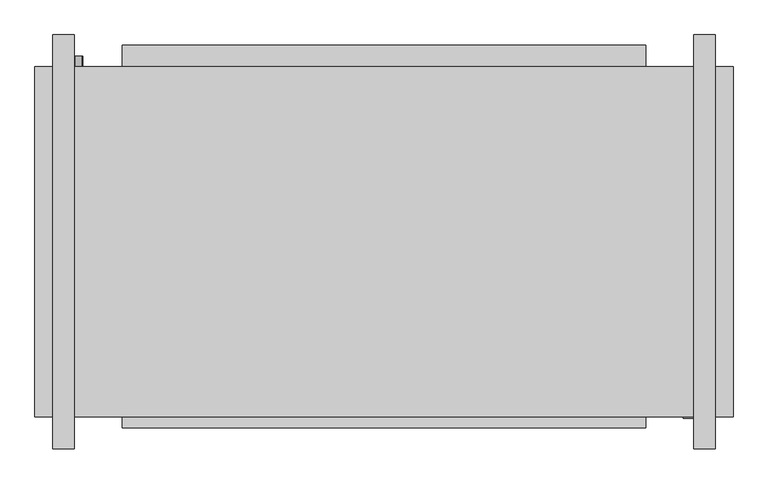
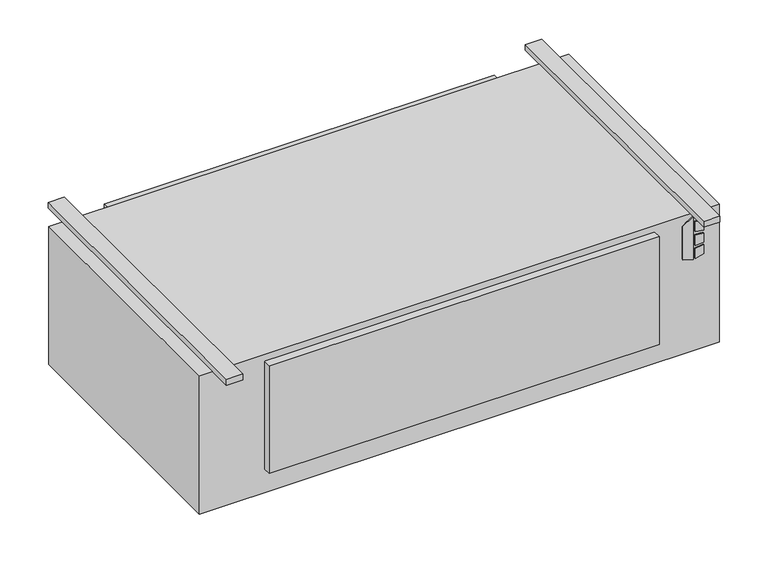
"""IFC4 building model written with IfcOpenShell, lengths in millimetres: proxy geometry, Concealed_High_Capacity_Horizontal_Cabinet_Fan_Coil_Unit_-_HXY_-_IEC_-_2-Pipe_Cool-EHeat_LH_2022 : Size 20 - 277v/60Hz/1Ph - 6 Row 14.0kW."""

from ifc_helpers import new_model, si_unit, point, frame, frame_2d, origin, origin_with_axes, place, context, project, spatial, polyline, circle_curve, trimmed, segment, composite_curve, outline, extrude, source, transform, mapped, element, save


def mechanical_equipment_720b4839(model_context):
    return source(origin(), model_context, "Body", "SweptSolid", [
        extrude(outline(polyline([(-142.4519297, 849.3868862), (-152.4, 881.5602728), (-10.2290756, 881.5602728), (-33.2510817, 849.3868862), (-142.4519297, 849.3868862)])), frame((0.0, -649.2875, 0.0), z_axis=(0.0, 1.0, 0.0), x_axis=(0.0, 0.0, 1.0)), (0.0, 0.0, 1.0), 3.175),
        extrude(outline(polyline([(-63.4526443, 888.3186058), (-66.6550368, 914.4), (-37.4261958, 914.4), (-29.3617807, 888.3186058), (-63.4526443, 888.3186058)])), frame((0.0, -649.2875, 0.0), z_axis=(0.0, 1.0, 0.0), x_axis=(0.0, 0.0, 1.0)), (0.0, 0.0, 1.0), 3.175),
        extrude(outline(polyline([(-115.3161712, 914.4), (-118.9816721, 888.3186058), (-152.4, 888.3186058), (-143.7657628, 914.4), (-115.3161712, 914.4)])), frame((0.0, -649.2875, 0.0), z_axis=(0.0, 1.0, 0.0), x_axis=(0.0, 0.0, 1.0)), (0.0, 0.0, 1.0), 3.175),
        extrude(outline(polyline([(-76.0010097, 914.4), (-73.7191834, 888.3186058), (-109.6567319, 888.3186058), (-106.9154669, 914.4), (-76.0010097, 914.4)])), frame((0.0, -649.2875, 0.0), z_axis=(0.0, 1.0, 0.0), x_axis=(0.0, 0.0, 1.0)), (0.0, 0.0, 1.0), 3.175),
        extrude(outline(composite_curve([segment(trimmed(circle_curve(frame_2d((-406.4, -558.8)), 9.525), [point((-406.4, -568.325))], [point((-406.4, -549.275))], False, "CARTESIAN"), True, "CONTINUOUS"), segment(trimmed(circle_curve(frame_2d((-406.4, -558.8)), 9.525), [point((-406.4, -549.275))], [point((-406.4, -568.325))], False, "CARTESIAN"), True, "CONTINUOUS")], self_intersect=False)), frame((0.0, 169.8625, 0.0), z_axis=(0.0, 1.0, 0.0), x_axis=(0.0, 0.0, 1.0)), (0.0, 0.0, 1.0), 25.4),
        extrude(outline(composite_curve([segment(trimmed(circle_curve(frame_2d((-330.2, -558.8)), 7.9375), [point((-330.2, -566.7375))], [point((-330.2, -550.8625))], False, "CARTESIAN"), True, "CONTINUOUS"), segment(trimmed(circle_curve(frame_2d((-330.2, -558.8)), 7.9375), [point((-330.2, -550.8625))], [point((-330.2, -566.7375))], False, "CARTESIAN"), True, "CONTINUOUS")], self_intersect=False)), frame((0.0, 169.8625, 0.0), z_axis=(0.0, 1.0, 0.0), x_axis=(0.0, 0.0, 1.0)), (0.0, 0.0, 1.0), 25.4),
        extrude(outline(composite_curve([segment(trimmed(circle_curve(frame_2d((-254.0, -558.8)), 7.9375), [point((-254.0, -566.7375))], [point((-254.0, -550.8625))], False, "CARTESIAN"), True, "CONTINUOUS"), segment(trimmed(circle_curve(frame_2d((-254.0, -558.8)), 7.9375), [point((-254.0, -550.8625))], [point((-254.0, -566.7375))], False, "CARTESIAN"), True, "CONTINUOUS")], self_intersect=False)), frame((0.0, 169.8625, 0.0), z_axis=(0.0, 1.0, 0.0), x_axis=(0.0, 0.0, 1.0)), (0.0, 0.0, 1.0), 25.4),
        extrude(outline(polyline([(965.2, 169.8625), (965.2, -646.1125), (-660.4, -646.1125), (-660.4, 169.8625), (965.2, 169.8625)])), frame((0.0, 0.0, -457.2), z_axis=(0.0, 0.0, 1.0), x_axis=(1.0, 0.0, 0.0)), (0.0, 0.0, 1.0), 457.2),
        extrude(outline(polyline([(-457.2, 220.6625), (762.0, 220.6625), (762.0, 169.8625), (-457.2, 169.8625), (-457.2, 220.6625)])), frame((0.0, 0.0, -377.825), z_axis=(0.0, 0.0, 1.0), x_axis=(1.0, 0.0, 0.0)), (0.0, 0.0, 1.0), 349.25),
        extrude(outline(polyline([(-568.325, 244.475), (-568.325, -720.725), (-619.125, -720.725), (-619.125, 244.475), (-568.325, 244.475)])), origin_with_axes(), (0.0, 0.0, 1.0), 19.05),
        extrude(outline(polyline([(923.925, 244.475), (923.925, -720.725), (873.125, -720.725), (873.125, 244.475), (923.925, 244.475)])), origin_with_axes(), (0.0, 0.0, 1.0), 19.05),
        extrude(outline(polyline([(762.0, -671.5125), (-457.2, -671.5125), (-457.2, -646.1125), (762.0, -646.1125), (762.0, -671.5125)])), frame((0.0, 0.0, -377.825), z_axis=(0.0, 0.0, 1.0), x_axis=(1.0, 0.0, 0.0)), (0.0, 0.0, 1.0), 355.6),
    ])


if __name__ == "__main__":
    model = new_model("IFC4")
    model_context = context("Model", 3, world=origin())
    ifc_project = project(units=[si_unit("LENGTHUNIT", "METRE", prefix="MILLI")], contexts=[model_context])
    site = spatial("IfcSite", under=ifc_project)
    building = spatial("IfcBuilding", under=site)
    placement = place(None, origin())
    mechanical_equipment_shape = mechanical_equipment_720b4839(model_context)
    element("IfcBuildingElementProxy", 1, Name="Concealed_High_Capacity_Horizontal_Cabinet_Fan_Coil_Unit_-_HXY_-_IEC_-_2-Pipe_Cool-EHeat_LH_2022 : Size 20 - 277v/60Hz/1Ph - 6 Row 14.0kW", ObjectType="Concealed_High_Capacity_Horizontal_Cabinet_Fan_Coil_Unit_-_HXY_-_IEC_-_2-Pipe_Cool-EHeat_LH_2022 : Size 20 - 277v/60Hz/1Ph - 6 Row 14.0kW", at=placement, inside=building, context=model_context, shape_type="MappedRepresentation", body=[
        mapped(mechanical_equipment_shape, transform((0.0, 0.0, 0.0), x_axis=(1.0, 0.0, 0.0), y_axis=(0.0, 1.0, 0.0), z_axis=(0.0, 0.0, 1.0))),
    ])
    save(model, "model.ifc")
